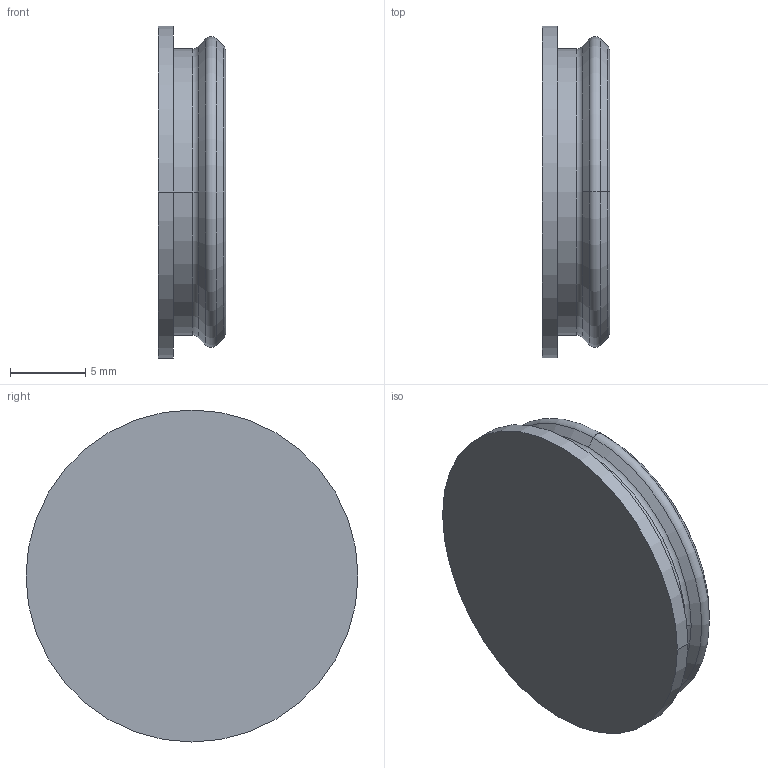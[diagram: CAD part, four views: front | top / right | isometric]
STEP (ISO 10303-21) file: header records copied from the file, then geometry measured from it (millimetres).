
FILE_DESCRIPTION (( 'STEP AP214' ), '1' );
FILE_NAME ('Çàãëóøêà ïèòàíèÿ.STEP', '2021-11-10T11:30:20', ( 'j03075@gmail.com' ), ( '' ), 'SwSTEP 2.0', 'SolidWorks 2021', '' );
FILE_SCHEMA (( 'AUTOMOTIVE_DESIGN' ));
Length unit declared in the file: millimetre
Products named in the file (1): Çàãëóøêà ïèòàíèÿ
Bounding box: 4.47 x 22 x 22 mm (x, y, z)
Volume: 748.9 mm3; surface area: 1193.1 mm2
Topology: 1 solids, 1 shells, 23 faces, 46 edges, 26 vertices
Faces by surface type: torus 10, cylinder 6, cone 4, plane 3
Entity records: 638 total; most frequent: DIRECTION 130, CARTESIAN_POINT 96, ORIENTED_EDGE 92, AXIS2_PLACEMENT_3D 60, EDGE_CURVE 46, CIRCLE 36, VERTEX_POINT 26, EDGE_LOOP 24
